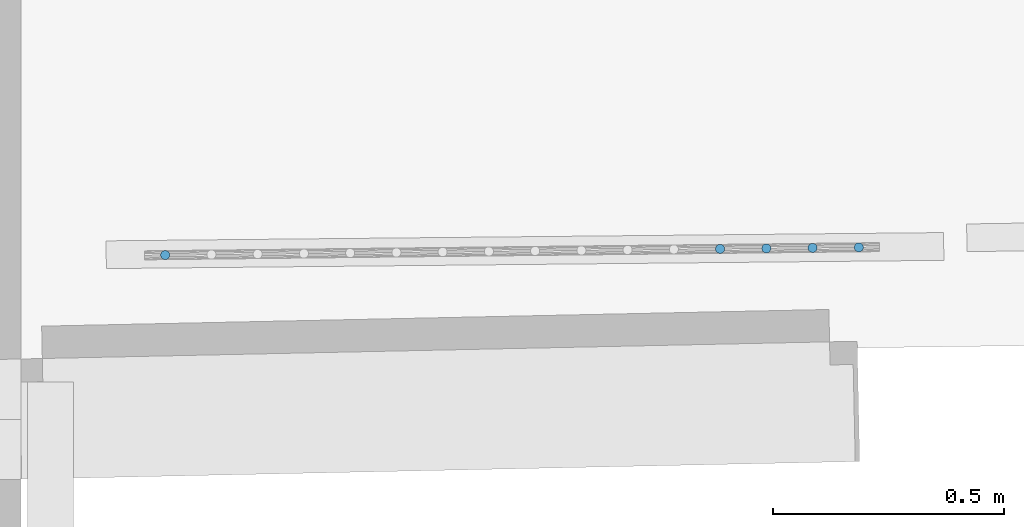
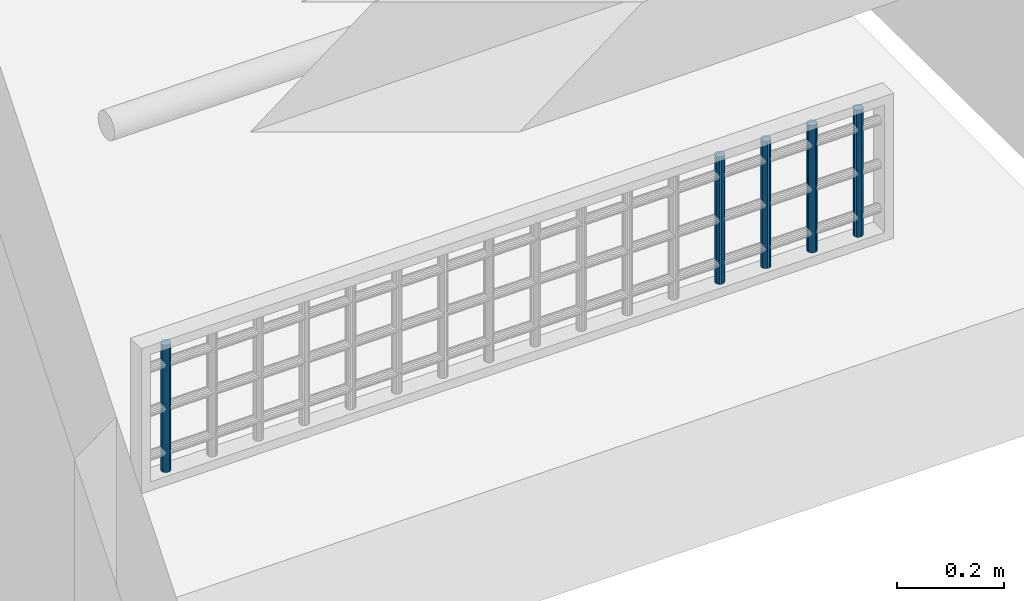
# One storey, part 30 of 97: 5 members, 1 element without a shape of its own.
"""IFC2X3 building model written with IfcOpenShell, lengths in centimetres."""

from ifc_helpers import new_model, entity, si_unit, converted_unit, direction, frame, origin, origin_with_axes, place, context, subcontext, project, spatial, faceted_brep, material, type_object, element, aggregate, save


model = new_model("IFC2X3")

# Units and contexts
model_context = context("Model", 3, precision=0.0001, world=origin(), true_north=direction((0.225632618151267, 0.974212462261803, 0.0)))
body_context = subcontext(model_context, "Body", "Model", "MODEL_VIEW")
ifc_project = project(units=[si_unit("LENGTHUNIT", "METRE", prefix="CENTI"), si_unit("AREAUNIT", "SQUARE_METRE", prefix="CENTI"), si_unit("VOLUMEUNIT", "CUBIC_METRE", prefix="CENTI"), converted_unit("PLANEANGLEUNIT", "DEGREE", entity("IfcRatioMeasure", 0.0174532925), si_unit("PLANEANGLEUNIT", "RADIAN"), dimensions=[0, 0, 0, 0, 0, 0, 0])], contexts=[model_context])

# Site, building, storey
site_placement = place(None, origin_with_axes())
site = spatial("IfcSite", under=ifc_project, at=site_placement, Name="Default Site", CompositionType="ELEMENT")
building_placement = place(site_placement, origin_with_axes())
building = spatial("IfcBuilding", under=site, at=building_placement, Name="Default Building", CompositionType="ELEMENT")
storey_placement = place(building_placement, origin_with_axes())
storey = spatial("IfcBuildingStorey", under=building, at=storey_placement, Name="Rez-de-chaussée", CompositionType="ELEMENT", Elevation=0.0)

# Assembly, members
building_element_proxy_type = type_object("IfcBuildingElementProxyType", Name="Type Object", PredefinedType="NOTDEFINED")
assembly_placement = place(storey_placement, frame((1081.21588561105, -852.417794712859, 9.99999999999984), z_axis=(0.0, 0.0, 1.0), x_axis=(-0.999937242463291, -0.0112031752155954, 0.0)))
assembly = element("IfcElementAssembly", 1, at=assembly_placement, inside=storey, type_object=building_element_proxy_type, Name="Panneau 1702014", ObjectType="Precast panel", PredefinedType="USERDEFINED")
ifc_material = material(Name="Aluminium satiné")
member_1_placement = place(assembly_placement, frame((7.43969231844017, 0.342020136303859, 31.0000002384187), z_axis=(0.0, 0.0, 1.0), x_axis=(0.499998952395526, -0.866026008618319, 0.0)))
member_1 = element("IfcMember", 2, at=member_1_placement, material=ifc_material, Name="4294967149", context=body_context, shape_type="Brep", body=[
    faceted_brep([(-4.6074255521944e-13, -6.38378239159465e-14, 1.66533453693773e-14), (-0.347296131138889, -9.99200722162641e-14, 1.66533453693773e-14), (-0.673647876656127, -0.118782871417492, 1.66533453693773e-14), (-0.939692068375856, -0.342020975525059, 1.66533453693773e-14), (-1.11333977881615, -0.642788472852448, 1.66533453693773e-14), (-1.17364691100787, -0.984809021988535, 1.66533453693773e-14), (-1.1133390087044, -1.32682889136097, 1.66533453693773e-14), (-0.93969058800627, -1.62759638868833, 1.66533453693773e-14), (-0.673645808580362, -1.85083373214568, 1.66533453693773e-14), (-0.347293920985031, -1.96961580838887, 1.66533453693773e-14), (2.58268164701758e-06, -1.96961516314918, 1.66533453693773e-14), (0.32635414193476, -1.85083261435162, 1.66533453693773e-14), (0.592398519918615, -1.62759418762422, 1.66533453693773e-14), (0.766046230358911, -1.32682669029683, 1.66533453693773e-14), (0.826353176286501, -0.984806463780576, 1.66533453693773e-14), (0.76604546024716, -0.642786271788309, 1.66533453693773e-14), (0.592396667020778, -0.342019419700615, 1.66533453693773e-14), (0.326352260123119, -0.118781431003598, 1.66533453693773e-14), (0.326352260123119, -0.118781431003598, -29.000000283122), (0.592396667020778, -0.342019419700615, -29.000000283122), (0.76604546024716, -0.642786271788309, -29.000000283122), (0.826353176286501, -0.984806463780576, -29.000000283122), (0.766046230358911, -1.32682669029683, -29.000000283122), (0.592398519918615, -1.62759418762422, -29.000000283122), (0.32635414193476, -1.85083261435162, -29.000000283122), (2.58268164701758e-06, -1.96961516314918, -29.000000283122), (-0.347293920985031, -1.96961580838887, -29.000000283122), (-0.673645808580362, -1.85083373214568, -29.000000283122), (-0.93969058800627, -1.62759638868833, -29.000000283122), (-1.1133390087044, -1.32682889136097, -29.000000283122), (-1.17364691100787, -0.984809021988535, -29.000000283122), (-1.11333977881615, -0.642788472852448, -29.000000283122), (-0.939692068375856, -0.342020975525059, -29.000000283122), (-0.673647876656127, -0.118782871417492, -29.000000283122), (-0.347296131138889, -9.99200722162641e-14, -29.000000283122), (-4.6074255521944e-13, -6.38378239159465e-14, -29.000000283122), (0.592397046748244, -0.342018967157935, 1.66533453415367e-14), (0.592397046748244, -0.342018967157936, -29.000000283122), (0.326352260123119, -0.118781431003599, -29.000000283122), (0.766045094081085, -0.642786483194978, 1.66533453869e-14), (0.766045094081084, -0.642786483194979, -29.000000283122), (0.592396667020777, -0.342019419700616, -29.000000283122), (0.82635327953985, -0.984806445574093, 1.66533453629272e-14), (0.826353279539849, -0.984806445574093, -29.000000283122), (0.766045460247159, -0.64278627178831, -29.000000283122), (0.766046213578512, -1.32682668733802, 1.66533453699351e-14), (0.766046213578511, -1.32682668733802, -29.000000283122), (0.8263531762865, -0.984806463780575, -29.000000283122), (0.326354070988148, -1.85083252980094, 1.66533453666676e-14), (0.326354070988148, -1.85083252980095, -29.000000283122), (2.62872141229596e-06, -1.96961528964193, 1.66533453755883e-14), (2.62872141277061e-06, -1.96961528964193, -29.000000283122), (-0.347293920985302, -1.96961558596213, 1.66533453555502e-14), (-0.347293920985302, -1.96961558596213, -29.000000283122), (-0.673645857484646, -1.85083386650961, 1.66533453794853e-14), (-0.673645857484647, -1.85083386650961, -29.000000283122), (-0.347293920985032, -1.96961580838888, -29.000000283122), (-0.939690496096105, -1.62759627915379, 1.66533453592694e-14), (-0.939690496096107, -1.62759627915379, -29.000000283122), (-0.673645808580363, -1.85083373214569, -29.000000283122), (-1.11333920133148, -1.32682900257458, 1.66533453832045e-14), (-1.11333920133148, -1.32682900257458, -29.000000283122), (-0.939690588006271, -1.62759638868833, -29.000000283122), (-1.17364677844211, -0.984808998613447, 1.6653345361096e-14), (-1.17364677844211, -0.984808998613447, -29.000000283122), (-1.11333988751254, -0.64278845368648, 1.66533453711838e-14), (-1.11333988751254, -0.64278845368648, -29.000000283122), (-0.939692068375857, -0.342020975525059, 1.66533453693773e-14), (-0.939692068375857, -0.342020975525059, -29.000000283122), (-0.673647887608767, -0.118782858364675, 1.66533453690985e-14), (-0.673647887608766, -0.118782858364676, -29.000000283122), (-0.939692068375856, -0.34202097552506, -29.000000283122), (-0.347296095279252, -9.85232789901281e-08, 1.66533453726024e-14), (-0.347296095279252, -9.85232798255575e-08, -29.000000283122), (-0.673647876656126, -0.118782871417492, -29.000000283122), (-9.75491708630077e-13, 4.22812393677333e-07, 1.66533453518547e-14), (-9.75491707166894e-13, 4.22812392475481e-07, -29.000000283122), (-0.347296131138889, -1.011219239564e-13, -29.000000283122), (0.326352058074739, -0.118781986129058, 1.6653345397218e-14), (0.326352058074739, -0.118781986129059, -29.000000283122), (-4.6120999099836e-13, -6.51220980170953e-14, -29.000000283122)], [[[0, 1, 2, 3, 4, 5, 6, 7, 8, 9, 10, 11, 12, 13, 14, 15, 16, 17]], [[18, 19, 20, 21, 22, 23, 24, 25, 26, 27, 28, 29, 30, 31, 32, 33, 34, 35]], [[17, 36, 37, 38]], [[16, 39, 40, 41]], [[15, 42, 43, 44]], [[14, 45, 46, 47]], [[13, 12, 23, 22]], [[12, 48, 49, 23]], [[11, 50, 51, 24]], [[10, 52, 53, 25]], [[9, 54, 55, 56]], [[8, 57, 58, 59]], [[7, 60, 61, 62]], [[6, 63, 64, 29]], [[5, 65, 66, 30]], [[4, 67, 68, 31]], [[3, 69, 70, 71]], [[2, 72, 73, 74]], [[1, 75, 76, 77]], [[0, 78, 79, 80]]]),
])
member_2_placement = place(assembly_placement, frame((17.4396932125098, 0.342020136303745, 31.0000002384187), z_axis=(0.0, 0.0, 1.0), x_axis=(0.500002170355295, -0.8660241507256, 0.0)))
member_2 = element("IfcMember", 3, at=member_2_placement, material=ifc_material, Name="4294967148", context=body_context, shape_type="Brep", body=[
    faceted_brep([(-5.5649929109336e-13, -2.4980018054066e-14, 1.11022302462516e-14), (-0.347296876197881, -1.49880108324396e-13, 1.11022302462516e-14), (-0.673648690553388, -0.118781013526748, 1.11022302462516e-14), (-0.939693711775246, -0.342018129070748, 1.11022302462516e-14), (-1.11334291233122, -0.642785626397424, 1.11022302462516e-14), (-1.17365112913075, -0.984805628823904, 1.11022302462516e-14), (-1.1133443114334, -1.32682539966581, 1.11022302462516e-14), (-0.939696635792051, -1.62759289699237, 1.11022302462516e-14), (-0.673653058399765, -1.85083187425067, 1.11022302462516e-14), (-0.347301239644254, -1.969614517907, 1.11022302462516e-14), (-5.10850822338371e-06, -1.96961580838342, 1.11022302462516e-14), (0.326346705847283, -1.85083479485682, 1.11022302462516e-14), (0.592391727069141, -1.62759767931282, 1.11022302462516e-14), (0.766040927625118, -1.32683018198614, 1.11022302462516e-14), (0.826349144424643, -0.984810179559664, 1.11022302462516e-14), (0.766042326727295, -0.642790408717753, 1.11022302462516e-14), (0.59239539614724, -0.342021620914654, 1.11022302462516e-14), (0.326351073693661, -0.118783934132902, 1.11022302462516e-14), (0.326351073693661, -0.118783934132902, -29.000000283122), (0.59239539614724, -0.342021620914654, -29.000000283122), (0.766042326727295, -0.642790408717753, -29.000000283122), (0.826349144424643, -0.984810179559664, -29.000000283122), (0.766040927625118, -1.32683018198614, -29.000000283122), (0.592391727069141, -1.62759767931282, -29.000000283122), (0.326346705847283, -1.85083479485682, -29.000000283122), (-5.10850822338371e-06, -1.96961580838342, -29.000000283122), (-0.347301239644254, -1.969614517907, -29.000000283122), (-0.673653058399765, -1.85083187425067, -29.000000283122), (-0.939696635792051, -1.62759289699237, -29.000000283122), (-1.1133443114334, -1.32682539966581, -29.000000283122), (-1.17365112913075, -0.984805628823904, -29.000000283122), (-1.11334291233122, -0.642785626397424, -29.000000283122), (-0.939693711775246, -0.342018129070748, -29.000000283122), (-0.673648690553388, -0.118781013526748, -29.000000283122), (-0.347296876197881, -1.49880108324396e-13, -29.000000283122), (-5.5649929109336e-13, -2.4980018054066e-14, -29.000000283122), (0.592394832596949, -0.342022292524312, 1.11022303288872e-14), (0.592394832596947, -0.342022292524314, -29.000000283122), (0.326351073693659, -0.118783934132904, -29.000000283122), (0.766043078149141, -0.642789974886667, 1.11022301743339e-14), (0.766043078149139, -0.642789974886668, -29.000000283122), (0.592395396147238, -0.342021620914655, -29.000000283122), (0.826348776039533, -0.984810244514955, 1.11022302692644e-14), (0.826348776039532, -0.984810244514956, -29.000000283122), (0.766042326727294, -0.642790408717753, -29.000000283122), (0.766040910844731, -1.32683017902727, 1.11022302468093e-14), (0.76604091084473, -1.32683017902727, -29.000000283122), (0.826349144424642, -0.984810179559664, -29.000000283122), (0.326346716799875, -1.85083480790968, 1.11022302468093e-14), (0.326346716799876, -1.85083480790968, -29.000000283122), (-4.98057036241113e-06, -1.96961615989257, 1.11022302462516e-14), (-4.98057036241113e-06, -1.96961615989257, -29.000000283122), (-0.347301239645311, -1.96961494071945, 1.11022302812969e-14), (-0.347301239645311, -1.96961494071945, -29.000000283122), (-5.10850822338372e-06, -1.96961580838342, -29.000000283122), (-0.673652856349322, -1.85083131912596, 1.11022301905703e-14), (-0.673652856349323, -1.85083131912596, -29.000000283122), (-0.347301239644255, -1.969614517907, -29.000000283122), (-0.939697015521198, -1.62759334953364, 1.11022303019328e-14), (-0.9396970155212, -1.62759334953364, -29.000000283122), (-0.673653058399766, -1.85083187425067, -29.000000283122), (-1.11334394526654, -1.3268251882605, 1.11022302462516e-14), (-1.11334394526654, -1.3268251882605, -29.000000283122), (-1.17365076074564, -0.984805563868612, 1.11022302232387e-14), (-1.17365076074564, -0.984805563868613, -29.000000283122), (-1.11334289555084, -0.642785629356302, 1.11022302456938e-14), (-1.11334289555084, -0.642785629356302, -29.000000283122), (-1.17365112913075, -0.984805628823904, -29.000000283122), (-0.67364870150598, -0.11878100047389, 1.11022302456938e-14), (-0.67364870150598, -0.118781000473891, -29.000000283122), (-0.939693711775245, -0.342018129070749, -29.000000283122), (-0.347297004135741, 3.51508998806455e-07, 1.11022302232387e-14), (-0.34729700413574, 3.51508997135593e-07, -29.000000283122), (-0.673648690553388, -0.118781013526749, -29.000000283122), (-2.72422421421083e-12, -8.67665976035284e-07, 1.11022303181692e-14), (-2.7242242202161e-12, -8.67665978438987e-07, -29.000000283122), (-0.347296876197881, -1.52283811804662e-13, -29.000000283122), (0.326351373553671, -0.118783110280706, 1.11022301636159e-14), (0.32635137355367, -0.118783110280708, -29.000000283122), (-5.57434172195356e-13, -2.75485627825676e-14, -29.000000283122)], [[[0, 1, 2, 3, 4, 5, 6, 7, 8, 9, 10, 11, 12, 13, 14, 15, 16, 17]], [[18, 19, 20, 21, 22, 23, 24, 25, 26, 27, 28, 29, 30, 31, 32, 33, 34, 35]], [[17, 36, 37, 38]], [[16, 39, 40, 41]], [[15, 42, 43, 44]], [[14, 45, 46, 47]], [[13, 12, 23, 22]], [[12, 48, 49, 23]], [[11, 50, 51, 24]], [[10, 52, 53, 54]], [[9, 55, 56, 57]], [[8, 58, 59, 60]], [[7, 61, 62, 28]], [[6, 63, 64, 29]], [[5, 65, 66, 67]], [[4, 3, 32, 31]], [[3, 68, 69, 70]], [[2, 71, 72, 73]], [[1, 74, 75, 76]], [[0, 77, 78, 79]]]),
])
member_3_placement = place(assembly_placement, frame((27.4396926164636, 0.342020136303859, 31.0000002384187), z_axis=(0.0, 0.0, 1.0), x_axis=(0.500002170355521, -0.866024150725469, 0.0)))
member_3 = element("IfcMember", 4, at=member_3_placement, material=ifc_material, Name="4294967147", context=body_context, shape_type="Brep", body=[
    faceted_brep([(-5.49560397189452e-13, -2.66453525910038e-13, 1.66533453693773e-14), (-0.347296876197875, -2.99760216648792e-13, 1.66533453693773e-14), (-0.67364794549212, -0.118779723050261, 1.66533453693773e-14), (-0.93969371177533, -0.34201812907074, 1.66533453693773e-14), (-1.11334216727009, -0.642784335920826, 1.66533453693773e-14), (-1.173651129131, -0.984805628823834, 1.66533453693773e-14), (-1.11334356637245, -1.32682410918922, 1.66533453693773e-14), (-0.939696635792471, -1.62759289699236, 1.66533453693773e-14), (-0.673653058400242, -1.85083187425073, 1.66533453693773e-14), (-0.347301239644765, -1.96961451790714, 1.66533453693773e-14), (-4.36344743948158e-06, -1.96961451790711, 1.66533453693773e-14), (0.326346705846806, -1.85083479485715, 1.66533453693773e-14), (0.592392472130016, -1.62759638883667, 1.66533453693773e-14), (0.766040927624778, -1.32683018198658, 1.66533453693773e-14), (0.826349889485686, -0.984808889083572, 1.66533453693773e-14), (0.766042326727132, -0.642790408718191, 1.66533453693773e-14), (0.592395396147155, -0.342021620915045, 1.66533453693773e-14), (0.326351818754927, -0.118782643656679, 1.66533453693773e-14), (0.326351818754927, -0.118782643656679, -29.000000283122), (0.592395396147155, -0.342021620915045, -29.000000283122), (0.766042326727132, -0.642790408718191, -29.000000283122), (0.826349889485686, -0.984808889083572, -29.000000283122), (0.766040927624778, -1.32683018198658, -29.000000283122), (0.592392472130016, -1.62759638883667, -29.000000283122), (0.326346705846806, -1.85083479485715, -29.000000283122), (-4.36344743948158e-06, -1.96961451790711, -29.000000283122), (-0.347301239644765, -1.96961451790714, -29.000000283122), (-0.673653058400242, -1.85083187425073, -29.000000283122), (-0.939696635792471, -1.62759289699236, -29.000000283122), (-1.11334356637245, -1.32682410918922, -29.000000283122), (-1.173651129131, -0.984805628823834, -29.000000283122), (-1.11334216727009, -0.642784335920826, -29.000000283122), (-0.93969371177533, -0.34201812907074, -29.000000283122), (-0.67364794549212, -0.118779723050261, -29.000000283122), (-0.347296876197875, -2.99760216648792e-13, -29.000000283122), (-5.49560397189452e-13, -2.66453525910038e-13, -29.000000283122), (0.592395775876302, -0.342021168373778, 1.66533453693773e-14), (0.592395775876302, -0.342021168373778, -29.000000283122), (0.766043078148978, -0.642789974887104, 1.66533453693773e-14), (0.766043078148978, -0.642789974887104, -29.000000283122), (0.826348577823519, -0.984809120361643, 1.66533455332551e-14), (0.826348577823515, -0.984809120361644, -29.000000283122), (0.766042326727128, -0.642790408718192, -29.000000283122), (0.766041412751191, -1.3268302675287, 1.66533453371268e-14), (0.766041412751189, -1.3268302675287, -29.000000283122), (0.826349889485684, -0.984808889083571, -29.000000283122), (0.326346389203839, -1.85083441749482, 1.66533453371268e-14), (0.32634638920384, -1.85083441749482, -29.000000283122), (0.592392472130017, -1.62759638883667, -29.000000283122), (-3.90791531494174e-06, -1.96961576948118, 1.66533453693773e-14), (-3.90791531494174e-06, -1.96961576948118, -29.000000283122), (-0.347301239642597, -1.96961365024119, 1.66533453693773e-14), (-0.347301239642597, -1.96961365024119, -29.000000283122), (-0.673652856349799, -1.85083131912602, 1.66533452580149e-14), (-0.673652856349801, -1.85083131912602, -29.000000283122), (-0.347301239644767, -1.96961451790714, -29.000000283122), (-0.939697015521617, -1.62759334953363, 1.66533453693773e-14), (-0.939697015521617, -1.62759334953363, -29.000000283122), (-1.11334431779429, -1.3268245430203, 1.66533453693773e-14), (-1.11334431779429, -1.3268245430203, -29.000000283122), (-1.17364981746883, -0.984805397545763, 1.66533452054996e-14), (-1.17364981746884, -0.984805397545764, -29.000000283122), (-1.1133426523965, -0.642784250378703, 1.66533454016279e-14), (-1.11334265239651, -0.642784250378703, -29.000000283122), (-0.939693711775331, -0.342018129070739, 1.66533453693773e-14), (-0.939693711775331, -0.342018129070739, -29.000000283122), (-0.673647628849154, -0.118780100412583, 1.66533454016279e-14), (-0.673647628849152, -0.118780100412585, -29.000000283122), (-0.939693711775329, -0.342018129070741, -29.000000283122), (-0.347297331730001, 1.25157377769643e-06, 1.66533453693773e-14), (-0.347297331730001, 1.25157377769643e-06, -29.000000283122), (-2.71728554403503e-12, -8.67666216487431e-07, 1.66533453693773e-14), (-2.71728554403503e-12, -8.67666216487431e-07, -29.000000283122), (0.326351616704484, -0.118783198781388, 1.66533453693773e-14), (0.326351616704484, -0.118783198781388, -29.000000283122)], [[[0, 1, 2, 3, 4, 5, 6, 7, 8, 9, 10, 11, 12, 13, 14, 15, 16, 17]], [[18, 19, 20, 21, 22, 23, 24, 25, 26, 27, 28, 29, 30, 31, 32, 33, 34, 35]], [[17, 36, 37, 18]], [[16, 38, 39, 19]], [[15, 40, 41, 42]], [[14, 43, 44, 45]], [[13, 12, 23, 22]], [[12, 46, 47, 48]], [[11, 49, 50, 24]], [[10, 51, 52, 25]], [[9, 53, 54, 55]], [[8, 56, 57, 27]], [[7, 58, 59, 28]], [[6, 60, 61, 29]], [[5, 62, 63, 30]], [[4, 64, 65, 31]], [[3, 66, 67, 68]], [[2, 69, 70, 33]], [[1, 71, 72, 34]], [[0, 73, 74, 35]]]),
])
member_4_placement = place(assembly_placement, frame((37.4396920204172, 0.342020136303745, 31.0000002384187), z_axis=(0.0, 0.0, 1.0), x_axis=(0.499995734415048, -0.866027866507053, 0.0)))
member_4 = element("IfcMember", 5, at=member_4_placement, material=ifc_material, Name="4294967146", context=body_context, shape_type="Brep", body=[
    faceted_brep([(-6.55031584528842e-13, -1.83186799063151e-13, 1.11022302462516e-14), (-0.347295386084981, -1.33226762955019e-13, 1.11022302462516e-14), (-0.673647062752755, -0.118784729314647, 1.11022302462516e-14), (-0.939691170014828, -0.342025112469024, 1.11022302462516e-14), (-1.11333739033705, -0.642792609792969, 1.11022302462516e-14), (-1.17364232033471, -0.984811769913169, 1.11022302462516e-14), (-1.11333370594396, -1.32683238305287, 1.11022302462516e-14), (-0.939684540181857, -1.62759988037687, 1.11022302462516e-14), (-0.673639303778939, -1.85083688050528, 1.11022302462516e-14), (-0.347286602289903, -1.96961709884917, 1.11022302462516e-14), (1.02738978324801e-05, -1.96961451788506, 1.11022302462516e-14), (0.326361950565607, -1.85082978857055, 1.11022302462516e-14), (0.592404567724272, -1.62759198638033, 1.11022302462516e-14), (0.766050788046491, -1.32682448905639, 1.11022302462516e-14), (0.826357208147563, -0.984802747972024, 1.11022302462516e-14), (0.766048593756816, -0.64278213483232, 1.11022302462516e-14), (0.592397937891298, -0.342017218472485, 1.11022302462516e-14), (0.32635270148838, -0.118780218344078, 1.11022302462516e-14), (0.32635270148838, -0.118780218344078, -29.000000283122), (0.592397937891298, -0.342017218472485, -29.000000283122), (0.766048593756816, -0.64278213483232, -29.000000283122), (0.826357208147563, -0.984802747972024, -29.000000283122), (0.766050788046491, -1.32682448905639, -29.000000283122), (0.592404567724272, -1.62759198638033, -29.000000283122), (0.326361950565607, -1.85082978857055, -29.000000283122), (1.02738978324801e-05, -1.96961451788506, -29.000000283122), (-0.347286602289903, -1.96961709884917, -29.000000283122), (-0.673639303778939, -1.85083688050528, -29.000000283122), (-0.939684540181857, -1.62759988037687, -29.000000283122), (-1.11333370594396, -1.32683238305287, -29.000000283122), (-1.17364232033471, -0.984811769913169, -29.000000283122), (-1.11333739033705, -0.642792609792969, -29.000000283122), (-0.939691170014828, -0.342025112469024, -29.000000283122), (-0.673647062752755, -0.118784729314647, -29.000000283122), (-0.347295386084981, -1.33226762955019e-13, -29.000000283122), (-6.55031584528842e-13, -1.83186799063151e-13, -29.000000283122), (0.592398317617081, -0.342016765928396, 1.11022302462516e-14), (0.592398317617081, -0.342016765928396, -29.000000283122), (0.766047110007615, -0.64278299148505, 1.11022302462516e-14), (0.766047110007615, -0.64278299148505, -29.000000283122), (0.826357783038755, -0.984802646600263, 1.11022302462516e-14), (0.826357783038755, -0.984802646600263, -29.000000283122), (0.766051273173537, -1.32682457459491, 1.11022302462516e-14), (0.766051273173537, -1.32682457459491, -29.000000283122), (0.592404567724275, -1.62759198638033, 1.11022302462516e-14), (0.592404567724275, -1.62759198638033, -29.000000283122), (0.326362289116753, -1.85083019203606, 1.11022302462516e-14), (0.326362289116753, -1.85083019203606, -29.000000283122), (1.00742373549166e-05, -1.96961396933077, 1.11022302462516e-14), (1.00742373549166e-05, -1.96961396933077, -29.000000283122), (-0.347286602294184, -1.96961623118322, 1.11022302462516e-14), (-0.347286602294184, -1.96961623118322, -29.000000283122), (-0.673639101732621, -1.85083632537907, 1.11022302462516e-14), (-0.673639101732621, -1.85083632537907, -29.000000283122), (-0.939684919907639, -1.62760033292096, 1.11022302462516e-14), (-0.939684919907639, -1.62760033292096, -29.000000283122), (-1.11333445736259, -1.32683281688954, 1.11022302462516e-14), (-1.11333445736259, -1.32683281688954, -29.000000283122), (-1.1736428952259, -0.98481187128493, 1.11022302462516e-14), (-1.1736428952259, -0.98481187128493, -29.000000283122), (-1.11333687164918, -0.642792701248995, 1.11022302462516e-14), (-1.11333687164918, -0.642792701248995, -29.000000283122), (-0.93969117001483, -0.342025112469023, 1.11022302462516e-14), (-0.93969117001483, -0.342025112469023, -29.000000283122), (-0.673646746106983, -0.118785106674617, 1.11022302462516e-14), (-0.673646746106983, -0.118785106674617, -29.000000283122), (-0.347295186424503, -5.48554419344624e-07, 1.11022302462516e-14), (-0.347295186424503, -5.48554419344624e-07, -29.000000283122), (-9.10710326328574e-12, 1.71329068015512e-06, 1.11022302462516e-14), (-9.10710326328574e-12, 1.71329068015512e-06, -29.000000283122), (0.326352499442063, -0.118780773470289, 1.11022302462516e-14), (0.326352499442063, -0.118780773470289, -29.000000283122)], [[[0, 1, 2, 3, 4, 5, 6, 7, 8, 9, 10, 11, 12, 13, 14, 15, 16, 17]], [[18, 19, 20, 21, 22, 23, 24, 25, 26, 27, 28, 29, 30, 31, 32, 33, 34, 35]], [[17, 36, 37, 18]], [[16, 38, 39, 19]], [[15, 40, 41, 20]], [[14, 42, 43, 21]], [[13, 44, 45, 22]], [[12, 46, 47, 23]], [[11, 48, 49, 24]], [[10, 50, 51, 25]], [[9, 52, 53, 26]], [[8, 54, 55, 27]], [[7, 56, 57, 28]], [[6, 58, 59, 29]], [[5, 60, 61, 30]], [[4, 62, 63, 31]], [[3, 64, 65, 32]], [[2, 66, 67, 33]], [[1, 68, 69, 34]], [[0, 70, 71, 35]]]),
])
member_5_placement = place(assembly_placement, frame((157.439696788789, 0.342020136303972, 31.0000002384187), z_axis=(0.0, 0.0, 1.0), x_axis=(0.500008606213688, -0.866020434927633, 0.0)))
member_5 = element("IfcMember", 6, at=member_5_placement, material=ifc_material, Name="4294967134", context=body_context, shape_type="Brep", body=[
    faceted_brep([(-5.77315972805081e-13, -3.10862446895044e-13, 5.55111512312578e-15), (-0.347298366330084, -2.22044604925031e-13, 5.55111512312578e-15), (-0.673648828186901, -0.118774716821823, 5.55111512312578e-15), (-0.939699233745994, -0.342016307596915, 5.55111512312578e-15), (-1.11334843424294, -0.642778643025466, 5.55111512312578e-15), (-1.1736629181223, -0.9848046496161, 5.55111512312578e-15), (-1.11335640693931, -1.3268209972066, 5.55111512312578e-15), (-0.939713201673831, -1.62759365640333, 5.55111512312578e-15), (-0.673671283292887, -1.85083461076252, 5.55111512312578e-15), (-0.347320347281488, -1.96961967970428, 5.55111512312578e-15), (-2.19809519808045e-05, -1.96961967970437, 5.55111512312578e-15), (0.326328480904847, -1.85084496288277, 5.55111512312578e-15), (0.59237888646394, -1.62760337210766, 5.55111512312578e-15), (0.76602808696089, -1.32684103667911, 5.55111512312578e-15), (0.826342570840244, -0.984815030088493, 5.55111512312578e-15), (0.766036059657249, -0.642798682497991, 5.55111512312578e-15), (0.592392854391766, -0.342026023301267, 5.55111512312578e-15), (0.326350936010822, -0.118785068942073, 5.55111512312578e-15), (0.326350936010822, -0.118785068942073, -29.000000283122), (0.592392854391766, -0.342026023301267, -29.000000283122), (0.766036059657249, -0.642798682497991, -29.000000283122), (0.826342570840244, -0.984815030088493, -29.000000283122), (0.76602808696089, -1.32684103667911, -29.000000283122), (0.59237888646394, -1.62760337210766, -29.000000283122), (0.326328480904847, -1.85084496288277, -29.000000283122), (-2.19809519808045e-05, -1.96961967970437, -29.000000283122), (-0.347320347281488, -1.96961967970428, -29.000000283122), (-0.673671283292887, -1.85083461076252, -29.000000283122), (-0.939713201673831, -1.62759365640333, -29.000000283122), (-1.11335640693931, -1.3268209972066, -29.000000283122), (-1.1736629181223, -0.9848046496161, -29.000000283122), (-1.11334843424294, -0.642778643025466, -29.000000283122), (-0.939699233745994, -0.342016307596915, -29.000000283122), (-0.673648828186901, -0.118774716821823, -29.000000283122), (-0.347298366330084, -2.22044604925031e-13, -29.000000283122), (-5.77315972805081e-13, -3.10862446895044e-13, -29.000000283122), (0.592393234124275, -0.342025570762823, 5.55111512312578e-15), (0.592393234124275, -0.342025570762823, -29.000000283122), (0.766039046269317, -0.642796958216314, 5.55111512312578e-15), (0.766039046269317, -0.642796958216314, -29.000000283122), (0.826339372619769, -0.984815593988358, 5.55111512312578e-15), (0.826339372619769, -0.984815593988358, -29.000000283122), (0.766030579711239, -1.32684147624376, 5.55111512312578e-15), (0.766030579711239, -1.32684147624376, -29.000000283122), (0.592378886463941, -1.62760337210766, 5.55111512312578e-15), (0.592378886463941, -1.62760337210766, -29.000000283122), (0.326326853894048, -1.85084302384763, 5.55111512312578e-15), (0.326326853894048, -1.85084302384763, -29.000000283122), (-2.0870254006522e-05, -1.96962273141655, 5.55111512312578e-15), (-2.0870254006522e-05, -1.96962273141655, -29.000000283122), (-0.347320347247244, -1.96961623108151, 5.55111512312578e-15), (-0.347320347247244, -1.96961623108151, -29.000000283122), (-0.673671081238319, -1.85083405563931, 5.55111512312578e-15), (-0.673671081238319, -1.85083405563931, -29.000000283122), (-0.93971358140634, -1.62759410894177, 5.55111512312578e-15), (-0.93971358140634, -1.62759410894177, -29.000000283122), (-1.11335939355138, -1.32682272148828, 5.55111512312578e-15), (-1.11335939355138, -1.32682272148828, -29.000000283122), (-1.17365971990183, -0.984804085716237, 5.55111512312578e-15), (-1.17365971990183, -0.984804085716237, -29.000000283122), (-1.11335092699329, -0.642778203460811, 5.55111512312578e-15), (-1.11335092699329, -0.642778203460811, -29.000000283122), (-0.939699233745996, -0.342016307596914, 5.55111512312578e-15), (-0.939699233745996, -0.342016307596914, -29.000000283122), (-0.673647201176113, -0.118776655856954, 5.55111512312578e-15), (-0.673647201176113, -0.118776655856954, -29.000000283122), (-0.347299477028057, 3.05171195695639e-06, 5.55111512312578e-15), (-0.347299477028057, 3.05171195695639e-06, -29.000000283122), (-3.48216444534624e-11, -3.44862308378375e-06, 5.55111512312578e-15), (-3.48216444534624e-11, -3.44862308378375e-06, -29.000000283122), (0.326350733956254, -0.11878562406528, 5.55111512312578e-15), (0.326350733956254, -0.11878562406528, -29.000000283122)], [[[0, 1, 2, 3, 4, 5, 6, 7, 8, 9, 10, 11, 12, 13, 14, 15, 16, 17]], [[18, 19, 20, 21, 22, 23, 24, 25, 26, 27, 28, 29, 30, 31, 32, 33, 34, 35]], [[17, 36, 37, 18]], [[16, 38, 39, 19]], [[15, 40, 41, 20]], [[14, 42, 43, 21]], [[13, 44, 45, 22]], [[12, 46, 47, 23]], [[11, 48, 49, 24]], [[10, 50, 51, 25]], [[9, 52, 53, 26]], [[8, 54, 55, 27]], [[7, 56, 57, 28]], [[6, 58, 59, 29]], [[5, 60, 61, 30]], [[4, 62, 63, 31]], [[3, 64, 65, 32]], [[2, 66, 67, 33]], [[1, 68, 69, 34]], [[0, 70, 71, 35]]]),
])
aggregate(assembly, [member_1, member_2, member_3, member_4, member_5])

save(model, "model.ifc")
